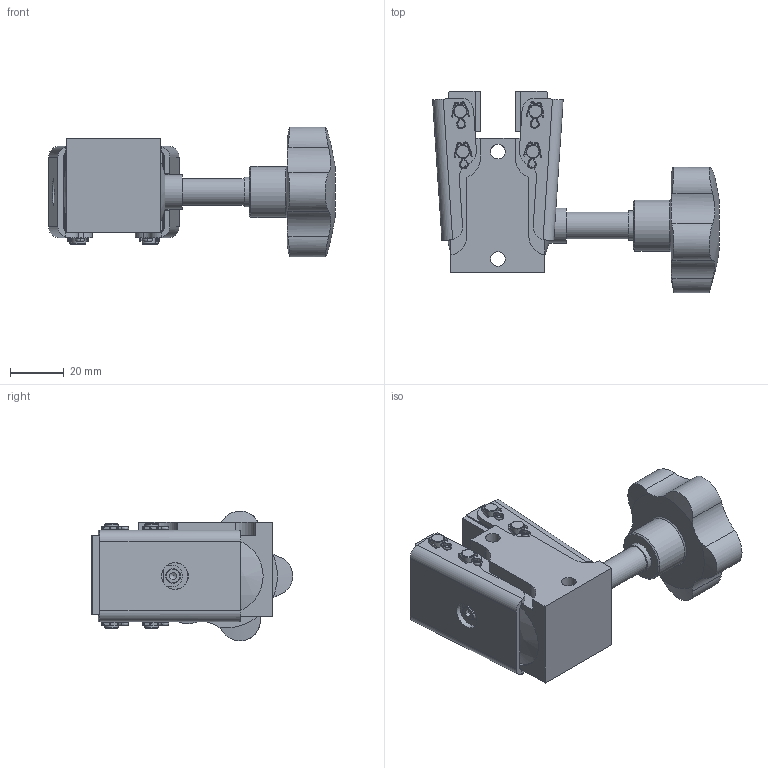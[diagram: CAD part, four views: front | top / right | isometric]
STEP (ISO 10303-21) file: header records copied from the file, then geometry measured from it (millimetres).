
FILE_DESCRIPTION(/* description */ ('','CAx-IF Rec.Pracs.---Representation and Presentation of Product Manufacturing Information (PMI)---4.0---2014-10-13'),/* implementation_level */ '2;1');
FILE_NAME(/* name */ 'X:\INVENTOR\DISEGNI\19_Pinze\STEP x Sito\19_06_C01_03 PMC C01_12,7.stp',/* time_stamp */ '2018-01-31T16:41:01+01:00',/* author */ ('stefano'),/* organization */ (''),/* preprocessor_version */ 'ST-DEVELOPER v17',/* originating_system */ 'Autodesk Inventor 2018',/* authorisation */ '');
FILE_SCHEMA (('AP242_MANAGED_MODEL_BASED_3D_ENGINEERING_MIM_LF { 1 0 10303 442 1 1 4 }'));
Length unit declared in the file: millimetre
Products named in the file (1): 19_06_C01_03 PMC C01_12,7_Substitute_2
Bounding box: 106.81 x 74.97 x 48.28 mm (x, y, z)
Volume: 109899.8 mm3; surface area: 32767.8 mm2
Topology: 3 solids, 3 shells, 411 faces, 1229 edges, 837 vertices
Faces by surface type: plane 165, cylinder 135, bspline 80, cone 26, sphere 3, torus 2
Full cylindrical faces by diameter (mm): 1.5 x8, 5 x10, 5.5 x4, 10 x3, 11 x1, 13 x1, 19 x1, 28 x2
Entity records: 19670 total; most frequent: CARTESIAN_POINT 8569, ORIENTED_EDGE 2454, DIRECTION 2139, EDGE_CURVE 1227, VERTEX_POINT 837, AXIS2_PLACEMENT_3D 805, LINE 529, VECTOR 529
